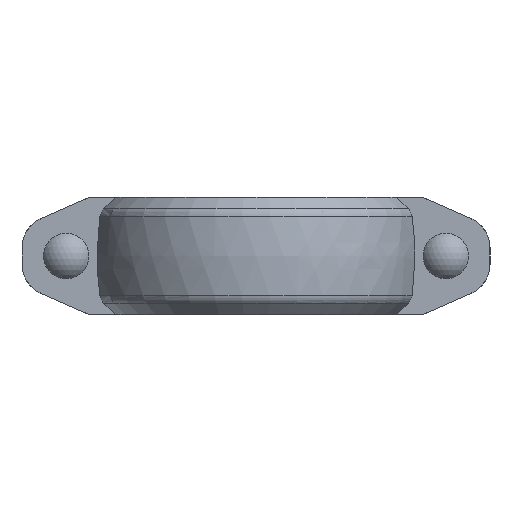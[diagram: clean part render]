
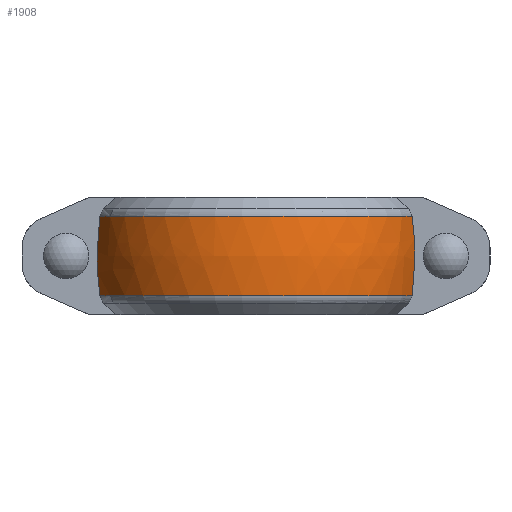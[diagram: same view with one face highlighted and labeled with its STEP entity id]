
A CAD part, front view. The second image highlights one B-rep face of the part: STEP entity #1908.
In plain terms, the highlighted free-form (B-spline) face has degree [2, 2] with [3, 5] control points.
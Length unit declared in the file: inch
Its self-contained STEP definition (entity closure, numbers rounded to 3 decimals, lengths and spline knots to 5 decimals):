
#27=(
BOUNDED_SURFACE()
B_SPLINE_SURFACE(2,2,((#3385,#3386,#3387,#3388,#3389),(#3390,#3391,#3392,
#3393,#3394),(#3395,#3396,#3397,#3398,#3399)),.UNSPECIFIED.,.F.,.F.,.F.)
B_SPLINE_SURFACE_WITH_KNOTS((3,3),(3,2,3),(-0.1275,0.1275),
(0.29256,1.5708,2.84904),.UNSPECIFIED.)
GEOMETRIC_REPRESENTATION_ITEM()
RATIONAL_B_SPLINE_SURFACE(((1.,0.803,1.,0.803,1.),
(0.992,0.796,0.992,0.796,
0.992),(1.,0.803,1.,0.803,1.)))
REPRESENTATION_ITEM('')
SURFACE()
);
#29=B_SPLINE_CURVE_WITH_KNOTS('',3,(#3154,#3155,#3156,#3157,#3158,#3159,
#3160,#3161,#3162,#3163,#3164,#3165,#3166,#3167),.UNSPECIFIED.,.F.,.F.,
(4,2,2,2,2,2,4),(12.60008,12.63477,13.53022,14.42566,
15.32111,16.21655,16.25124),.UNSPECIFIED.);
#35=B_SPLINE_CURVE_WITH_KNOTS('',3,(#3258,#3259,#3260,#3261,#3262,#3263,
#3264,#3265,#3266,#3267,#3268,#3269,#3270,#3271),.UNSPECIFIED.,.F.,.F.,
(4,2,2,2,2,2,4),(41.4514,41.48609,42.38154,43.27698,
44.17243,45.06787,45.10256),.UNSPECIFIED.);
#240=FACE_OUTER_BOUND('',#353,.T.);
#353=EDGE_LOOP('',(#1685,#1686,#1687,#1688));
#718=CIRCLE('',#2139,3.1413);
#721=CIRCLE('',#2147,3.1413);
#881=VERTEX_POINT('',#3140);
#882=VERTEX_POINT('',#3153);
#891=VERTEX_POINT('',#3244);
#892=VERTEX_POINT('',#3257);
#1126=EDGE_CURVE('',#882,#881,#29,.T.);
#1140=EDGE_CURVE('',#892,#891,#35,.T.);
#1159=EDGE_CURVE('',#892,#881,#718,.T.);
#1162=EDGE_CURVE('',#891,#882,#721,.T.);
#1685=ORIENTED_EDGE('',*,*,#1126,.T.);
#1686=ORIENTED_EDGE('',*,*,#1159,.F.);
#1687=ORIENTED_EDGE('',*,*,#1140,.T.);
#1688=ORIENTED_EDGE('',*,*,#1162,.T.);
#1908=ADVANCED_FACE('',(#240),#27,.F.);
#2139=AXIS2_PLACEMENT_3D('',#3376,#2658,#2659);
#2147=AXIS2_PLACEMENT_3D('',#3384,#2674,#2675);
#2658=DIRECTION('center_axis',(0.,0.,-1.));
#2659=DIRECTION('ref_axis',(1.,0.,0.));
#2674=DIRECTION('center_axis',(0.,0.,-1.));
#2675=DIRECTION('ref_axis',(1.,0.,0.));
#3140=CARTESIAN_POINT('',(3.00356,0.92,-0.7629));
#3153=CARTESIAN_POINT('',(3.00356,0.92,0.7629));
#3154=CARTESIAN_POINT('Ctrl Pts',(3.00356,0.92,0.7629));
#3155=CARTESIAN_POINT('Ctrl Pts',(3.00422,0.92,0.75796));
#3156=CARTESIAN_POINT('Ctrl Pts',(3.00488,0.92,0.75302));
#3157=CARTESIAN_POINT('Ctrl Pts',(3.02231,0.92,0.62041));
#3158=CARTESIAN_POINT('Ctrl Pts',(3.03472,0.92,0.49216));
#3159=CARTESIAN_POINT('Ctrl Pts',(3.05079,0.92,0.24071));
#3160=CARTESIAN_POINT('Ctrl Pts',(3.05446,0.92,0.11751));
#3161=CARTESIAN_POINT('Ctrl Pts',(3.05446,0.92,-0.11751));
#3162=CARTESIAN_POINT('Ctrl Pts',(3.05079,0.92,-0.24071));
#3163=CARTESIAN_POINT('Ctrl Pts',(3.03472,0.92,-0.49216));
#3164=CARTESIAN_POINT('Ctrl Pts',(3.02231,0.92,-0.62041));
#3165=CARTESIAN_POINT('Ctrl Pts',(3.00488,0.92,-0.75302));
#3166=CARTESIAN_POINT('Ctrl Pts',(3.00422,0.92,-0.75796));
#3167=CARTESIAN_POINT('Ctrl Pts',(3.00356,0.92,-0.7629));
#3244=CARTESIAN_POINT('',(-3.00356,0.92,0.7629));
#3257=CARTESIAN_POINT('',(-3.00356,0.92,-0.7629));
#3258=CARTESIAN_POINT('Ctrl Pts',(-3.00356,0.92,-0.7629));
#3259=CARTESIAN_POINT('Ctrl Pts',(-3.00422,0.92,-0.75796));
#3260=CARTESIAN_POINT('Ctrl Pts',(-3.00488,0.92,-0.75302));
#3261=CARTESIAN_POINT('Ctrl Pts',(-3.02231,0.92,-0.62041));
#3262=CARTESIAN_POINT('Ctrl Pts',(-3.03472,0.92,-0.49216));
#3263=CARTESIAN_POINT('Ctrl Pts',(-3.05079,0.92,-0.24071));
#3264=CARTESIAN_POINT('Ctrl Pts',(-3.05446,0.92,-0.11751));
#3265=CARTESIAN_POINT('Ctrl Pts',(-3.05446,0.92,0.11751));
#3266=CARTESIAN_POINT('Ctrl Pts',(-3.05079,0.92,0.24071));
#3267=CARTESIAN_POINT('Ctrl Pts',(-3.03472,0.92,0.49216));
#3268=CARTESIAN_POINT('Ctrl Pts',(-3.02231,0.92,0.62041));
#3269=CARTESIAN_POINT('Ctrl Pts',(-3.00488,0.92,0.75302));
#3270=CARTESIAN_POINT('Ctrl Pts',(-3.00422,0.92,0.75796));
#3271=CARTESIAN_POINT('Ctrl Pts',(-3.00356,0.92,0.7629));
#3376=CARTESIAN_POINT('Origin',(0.,0.,-0.7629));
#3384=CARTESIAN_POINT('Origin',(0.,0.,0.7629));
#3385=CARTESIAN_POINT('Ctrl Pts',(-3.00783,0.90595,0.7629));
#3386=CARTESIAN_POINT('Ctrl Pts',(-2.33454,3.1413,0.7629));
#3387=CARTESIAN_POINT('Ctrl Pts',(0.,3.1413,0.7629));
#3388=CARTESIAN_POINT('Ctrl Pts',(2.33454,3.1413,0.7629));
#3389=CARTESIAN_POINT('Ctrl Pts',(3.00783,0.90595,0.7629));
#3390=CARTESIAN_POINT('Ctrl Pts',(-3.10147,0.93416,0.));
#3391=CARTESIAN_POINT('Ctrl Pts',(-2.40722,3.2391,0.));
#3392=CARTESIAN_POINT('Ctrl Pts',(0.,3.2391,0.));
#3393=CARTESIAN_POINT('Ctrl Pts',(2.40722,3.2391,0.));
#3394=CARTESIAN_POINT('Ctrl Pts',(3.10147,0.93416,0.));
#3395=CARTESIAN_POINT('Ctrl Pts',(-3.00783,0.90595,-0.7629));
#3396=CARTESIAN_POINT('Ctrl Pts',(-2.33454,3.1413,-0.7629));
#3397=CARTESIAN_POINT('Ctrl Pts',(0.,3.1413,-0.7629));
#3398=CARTESIAN_POINT('Ctrl Pts',(2.33454,3.1413,-0.7629));
#3399=CARTESIAN_POINT('Ctrl Pts',(3.00783,0.90595,-0.7629));
